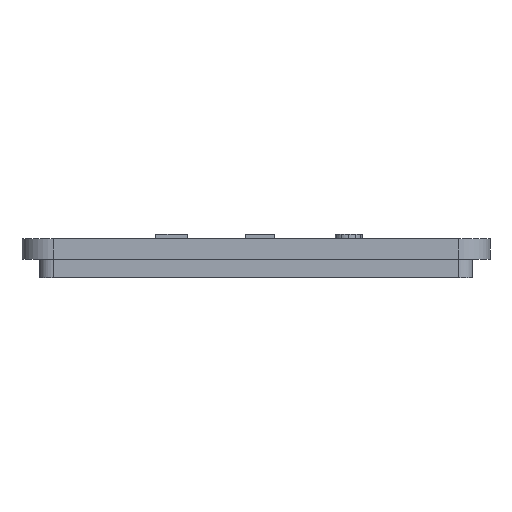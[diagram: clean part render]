
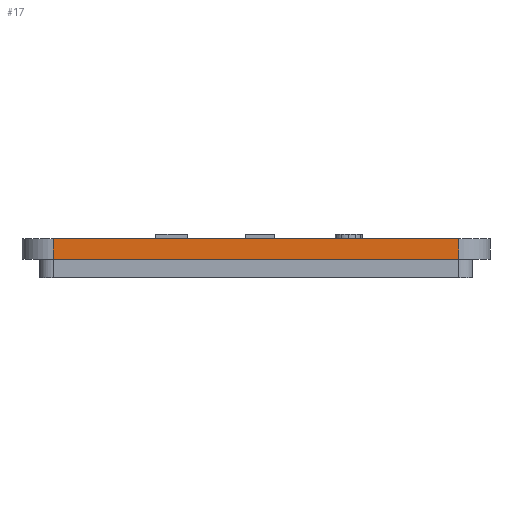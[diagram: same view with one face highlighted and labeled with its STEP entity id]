
A CAD part, left-side view. The second image highlights one B-rep face of the part: STEP entity #17.
In plain terms, the highlighted planar face has unit normal (-1, 0, 0).
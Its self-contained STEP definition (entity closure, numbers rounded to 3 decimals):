
#17 = ADVANCED_FACE('',(#18),#32,.F.);
#18 = FACE_BOUND('',#19,.F.);
#19 = EDGE_LOOP('',(#20,#55,#83,#111));
#20 = ORIENTED_EDGE('',*,*,#21,.F.);
#21 = EDGE_CURVE('',#22,#24,#26,.T.);
#22 = VERTEX_POINT('',#23);
#23 = CARTESIAN_POINT('',(-70.,-39.,4.));
#24 = VERTEX_POINT('',#25);
#25 = CARTESIAN_POINT('',(-70.,39.,4.));
#26 = SURFACE_CURVE('',#27,(#31,#43),.PCURVE_S1.);
#27 = LINE('',#28,#29);
#28 = CARTESIAN_POINT('',(-70.,-45.,4.));
#29 = VECTOR('',#30,1.);
#30 = DIRECTION('',(0.,1.,0.));
#31 = PCURVE('',#32,#37);
#32 = PLANE('',#33);
#33 = AXIS2_PLACEMENT_3D('',#34,#35,#36);
#34 = CARTESIAN_POINT('',(-70.,-45.,0.));
#35 = DIRECTION('',(1.,0.,0.));
#36 = DIRECTION('',(0.,0.,1.));
#37 = DEFINITIONAL_REPRESENTATION('',(#38),#42);
#38 = LINE('',#39,#40);
#39 = CARTESIAN_POINT('',(4.,0.));
#40 = VECTOR('',#41,1.);
#41 = DIRECTION('',(0.,-1.));
#42 = ( GEOMETRIC_REPRESENTATION_CONTEXT(2) 
PARAMETRIC_REPRESENTATION_CONTEXT() REPRESENTATION_CONTEXT('2D SPACE',''
  ) );
#43 = PCURVE('',#44,#49);
#44 = PLANE('',#45);
#45 = AXIS2_PLACEMENT_3D('',#46,#47,#48);
#46 = CARTESIAN_POINT('',(-70.,-45.,4.));
#47 = DIRECTION('',(0.,0.,1.));
#48 = DIRECTION('',(1.,0.,0.));
#49 = DEFINITIONAL_REPRESENTATION('',(#50),#54);
#50 = LINE('',#51,#52);
#51 = CARTESIAN_POINT('',(0.,0.));
#52 = VECTOR('',#53,1.);
#53 = DIRECTION('',(0.,1.));
#54 = ( GEOMETRIC_REPRESENTATION_CONTEXT(2) 
PARAMETRIC_REPRESENTATION_CONTEXT() REPRESENTATION_CONTEXT('2D SPACE',''
  ) );
#55 = ORIENTED_EDGE('',*,*,#56,.F.);
#56 = EDGE_CURVE('',#57,#22,#59,.T.);
#57 = VERTEX_POINT('',#58);
#58 = CARTESIAN_POINT('',(-70.,-39.,0.));
#59 = SURFACE_CURVE('',#60,(#64,#71),.PCURVE_S1.);
#60 = LINE('',#61,#62);
#61 = CARTESIAN_POINT('',(-70.,-39.,0.));
#62 = VECTOR('',#63,1.);
#63 = DIRECTION('',(0.,0.,1.));
#64 = PCURVE('',#32,#65);
#65 = DEFINITIONAL_REPRESENTATION('',(#66),#70);
#66 = LINE('',#67,#68);
#67 = CARTESIAN_POINT('',(0.,-6.));
#68 = VECTOR('',#69,1.);
#69 = DIRECTION('',(1.,0.));
#70 = ( GEOMETRIC_REPRESENTATION_CONTEXT(2) 
PARAMETRIC_REPRESENTATION_CONTEXT() REPRESENTATION_CONTEXT('2D SPACE',''
  ) );
#71 = PCURVE('',#72,#77);
#72 = CYLINDRICAL_SURFACE('',#73,6.);
#73 = AXIS2_PLACEMENT_3D('',#74,#75,#76);
#74 = CARTESIAN_POINT('',(-64.,-39.,0.));
#75 = DIRECTION('',(0.,0.,1.));
#76 = DIRECTION('',(-1.,-0.,0.));
#77 = DEFINITIONAL_REPRESENTATION('',(#78),#82);
#78 = LINE('',#79,#80);
#79 = CARTESIAN_POINT('',(0.,0.));
#80 = VECTOR('',#81,1.);
#81 = DIRECTION('',(0.,1.));
#82 = ( GEOMETRIC_REPRESENTATION_CONTEXT(2) 
PARAMETRIC_REPRESENTATION_CONTEXT() REPRESENTATION_CONTEXT('2D SPACE',''
  ) );
#83 = ORIENTED_EDGE('',*,*,#84,.T.);
#84 = EDGE_CURVE('',#57,#85,#87,.T.);
#85 = VERTEX_POINT('',#86);
#86 = CARTESIAN_POINT('',(-70.,39.,0.));
#87 = SURFACE_CURVE('',#88,(#92,#99),.PCURVE_S1.);
#88 = LINE('',#89,#90);
#89 = CARTESIAN_POINT('',(-70.,-45.,0.));
#90 = VECTOR('',#91,1.);
#91 = DIRECTION('',(0.,1.,0.));
#92 = PCURVE('',#32,#93);
#93 = DEFINITIONAL_REPRESENTATION('',(#94),#98);
#94 = LINE('',#95,#96);
#95 = CARTESIAN_POINT('',(0.,0.));
#96 = VECTOR('',#97,1.);
#97 = DIRECTION('',(0.,-1.));
#98 = ( GEOMETRIC_REPRESENTATION_CONTEXT(2) 
PARAMETRIC_REPRESENTATION_CONTEXT() REPRESENTATION_CONTEXT('2D SPACE',''
  ) );
#99 = PCURVE('',#100,#105);
#100 = PLANE('',#101);
#101 = AXIS2_PLACEMENT_3D('',#102,#103,#104);
#102 = CARTESIAN_POINT('',(-70.,-45.,0.));
#103 = DIRECTION('',(0.,0.,1.));
#104 = DIRECTION('',(1.,0.,0.));
#105 = DEFINITIONAL_REPRESENTATION('',(#106),#110);
#106 = LINE('',#107,#108);
#107 = CARTESIAN_POINT('',(0.,0.));
#108 = VECTOR('',#109,1.);
#109 = DIRECTION('',(0.,1.));
#110 = ( GEOMETRIC_REPRESENTATION_CONTEXT(2) 
PARAMETRIC_REPRESENTATION_CONTEXT() REPRESENTATION_CONTEXT('2D SPACE',''
  ) );
#111 = ORIENTED_EDGE('',*,*,#112,.T.);
#112 = EDGE_CURVE('',#85,#24,#113,.T.);
#113 = SURFACE_CURVE('',#114,(#118,#125),.PCURVE_S1.);
#114 = LINE('',#115,#116);
#115 = CARTESIAN_POINT('',(-70.,39.,0.));
#116 = VECTOR('',#117,1.);
#117 = DIRECTION('',(0.,0.,1.));
#118 = PCURVE('',#32,#119);
#119 = DEFINITIONAL_REPRESENTATION('',(#120),#124);
#120 = LINE('',#121,#122);
#121 = CARTESIAN_POINT('',(0.,-84.));
#122 = VECTOR('',#123,1.);
#123 = DIRECTION('',(1.,0.));
#124 = ( GEOMETRIC_REPRESENTATION_CONTEXT(2) 
PARAMETRIC_REPRESENTATION_CONTEXT() REPRESENTATION_CONTEXT('2D SPACE',''
  ) );
#125 = PCURVE('',#126,#131);
#126 = CYLINDRICAL_SURFACE('',#127,6.);
#127 = AXIS2_PLACEMENT_3D('',#128,#129,#130);
#128 = CARTESIAN_POINT('',(-64.,39.,0.));
#129 = DIRECTION('',(0.,0.,1.));
#130 = DIRECTION('',(-1.,-0.,0.));
#131 = DEFINITIONAL_REPRESENTATION('',(#132),#136);
#132 = LINE('',#133,#134);
#133 = CARTESIAN_POINT('',(-0.,0.));
#134 = VECTOR('',#135,1.);
#135 = DIRECTION('',(-0.,1.));
#136 = ( GEOMETRIC_REPRESENTATION_CONTEXT(2) 
PARAMETRIC_REPRESENTATION_CONTEXT() REPRESENTATION_CONTEXT('2D SPACE',''
  ) );
